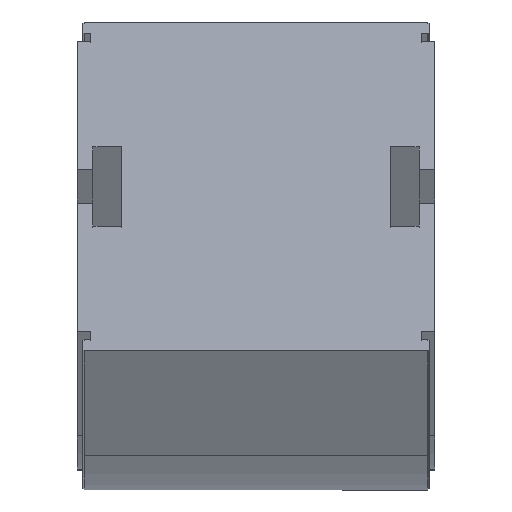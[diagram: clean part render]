
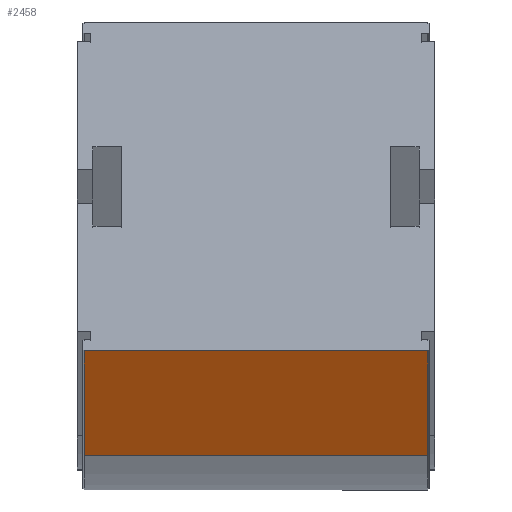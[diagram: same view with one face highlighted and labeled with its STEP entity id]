
A CAD part, top view. The second image highlights one B-rep face of the part: STEP entity #2458.
In plain terms, the highlighted planar face has unit normal (0, -0.985, 0.174).
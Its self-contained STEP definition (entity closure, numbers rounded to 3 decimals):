
#99 = CARTESIAN_POINT ( 'NONE',  ( 43.15, -33.766, 244.117 ) ) ;
#128 = LINE ( 'NONE', #1927, #169 ) ;
#132 = LINE ( 'NONE', #1938, #165 ) ;
#162 = VECTOR ( 'NONE', #1943, 1000. ) ;
#163 = VECTOR ( 'NONE', #1942, 1000. ) ;
#165 = VECTOR ( 'NONE', #1939, 1000. ) ;
#168 = LINE ( 'NONE', #1940, #163 ) ;
#169 = VECTOR ( 'NONE', #1929, 1000. ) ;
#170 = LINE ( 'NONE', #1922, #162 ) ;
#253 = EDGE_LOOP ( 'NONE', ( #835, #836, #837, #838 ) ) ;
#277 = VERTEX_POINT ( 'NONE', #99 ) ;
#499 = AXIS2_PLACEMENT_3D ( 'NONE', #1385, #1396, #1397 ) ;
#835 = ORIENTED_EDGE ( 'NONE', *, *, #3125, .F. ) ;
#836 = ORIENTED_EDGE ( 'NONE', *, *, #3126, .T. ) ;
#837 = ORIENTED_EDGE ( 'NONE', *, *, #3127, .T. ) ;
#838 = ORIENTED_EDGE ( 'NONE', *, *, #3122, .F. ) ;
#994 = CARTESIAN_POINT ( 'NONE',  ( -43.15, -33.766, 244.117 ) ) ;
#1007 = CARTESIAN_POINT ( 'NONE',  ( -43.15, -7.719, 391.838 ) ) ;
#1013 = CARTESIAN_POINT ( 'NONE',  ( 43.15, -7.719, 391.838 ) ) ;
#1383 = PLANE ( 'NONE',  #499 ) ;
#1385 = CARTESIAN_POINT ( 'NONE',  ( -43.15, -33.766, 244.117 ) ) ;
#1396 = DIRECTION ( 'NONE',  ( 0., 0.985, -0.174 ) ) ;
#1397 = DIRECTION ( 'NONE',  ( 0., 0.174, 0.985 ) ) ;
#1663 = VERTEX_POINT ( 'NONE', #994 ) ;
#1677 = VERTEX_POINT ( 'NONE', #1007 ) ;
#1683 = VERTEX_POINT ( 'NONE', #1013 ) ;
#1922 = CARTESIAN_POINT ( 'NONE',  ( -43.15, -7.719, 391.838 ) ) ;
#1927 = CARTESIAN_POINT ( 'NONE',  ( -43.15, -33.766, 244.117 ) ) ;
#1929 = DIRECTION ( 'NONE',  ( 0., 0.174, 0.985 ) ) ;
#1938 = CARTESIAN_POINT ( 'NONE',  ( -43.15, -33.766, 244.117 ) ) ;
#1939 = DIRECTION ( 'NONE',  ( -1., 0., 0. ) ) ;
#1940 = CARTESIAN_POINT ( 'NONE',  ( 43.15, -33.766, 244.117 ) ) ;
#1942 = DIRECTION ( 'NONE',  ( 0., 0.174, 0.985 ) ) ;
#1943 = DIRECTION ( 'NONE',  ( -1., 0., 0. ) ) ;
#2458 = ADVANCED_FACE ( 'NONE', ( #2675 ), #1383, .F. ) ;
#2675 = FACE_OUTER_BOUND ( 'NONE', #253, .T. ) ;
#3122 = EDGE_CURVE ( 'NONE', #1663, #1677, #128, .T. ) ;
#3125 = EDGE_CURVE ( 'NONE', #277, #1663, #132, .T. ) ;
#3126 = EDGE_CURVE ( 'NONE', #277, #1683, #168, .T. ) ;
#3127 = EDGE_CURVE ( 'NONE', #1683, #1677, #170, .T. ) ;
